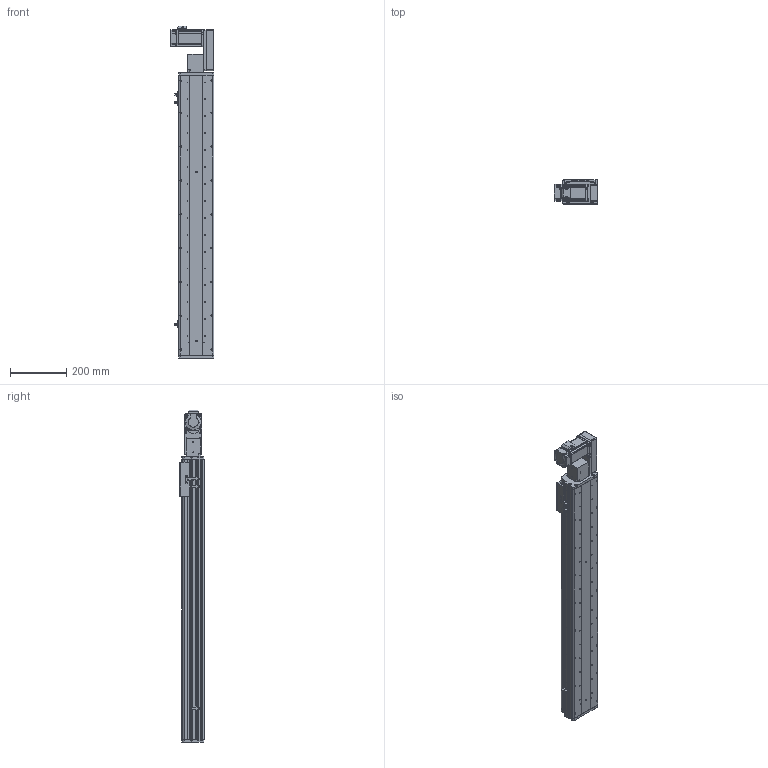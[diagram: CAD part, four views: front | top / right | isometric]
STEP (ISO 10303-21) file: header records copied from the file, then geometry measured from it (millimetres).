
FILE_DESCRIPTION (( 'STEP AP214' ), '1' );
FILE_NAME ('KSD125B-S800-MLB-CM.STEP', '2017-10-21T01:45:04', ( '微软用户' ), ( '微软中国' ), 'SwSTEP 2.0', 'SolidWorks 2014', '' );
FILE_SCHEMA (( 'AUTOMOTIVE_DESIGN' ));
Length unit declared in the file: millimetre
Products named in the file (17): KSD125模组同步带-防撞垫2; 覜茼え68遵圉猾敕; U倰嫖萇假蚾璃; U倰嫖萇EEㄜSX672; KSD125模组同步带-防撞垫1; 前端板-125宽模组同步带; 125模组同步带-尾端板1; KSD125模组同步带-滑动座1; KSD125B-S800-MLB-CM; 悵誘欶奻狟殏; HTPA30S3M150_A_H6_a佪裝蚚; HTPA30S3M150_A_H6_a萇儂蚚; 100宽马达安装板连板上下折丝杆同步带; 100宽马达安装板同步带左; KSD125模组800行程同步带-防尘盖; 125模组800行程同步带-底板; MHMD042G1CA_2_03
Assembly tree (20 placements, depth 2):
  KSD125B-S800-MLB-CM
    KSD125模组同步带-滑动座1
    125模组同步带-尾端板1
    前端板-125宽模组同步带
    KSD125模组同步带-防撞垫1
    U倰嫖萇EEㄜSX672  x3
    U倰嫖萇假蚾璃  x3
    覜茼え68遵圉猾敕
    KSD125模组同步带-防撞垫2
    MHMD042G1CA_2_03
    125模组800行程同步带-底板
    KSD125模组800行程同步带-防尘盖
    100宽马达安装板同步带左
    100宽马达安装板连板上下折丝杆同步带
    HTPA30S3M150_A_H6_a萇儂蚚
    HTPA30S3M150_A_H6_a佪裝蚚
    悵誘欶奻狟殏
Bounding box: 155 x 86 x 1178 mm (x, y, z)
Volume: 3390696.3 mm3; surface area: 1152956.8 mm2
Topology: 19 solids, 22 shells, 2289 faces, 6631 edges, 4382 vertices
Faces by surface type: cylinder 1436, plane 726, cone 105, bspline 22
Entity records: 81401 total; most frequent: CARTESIAN_POINT 16077, DIRECTION 12656, ORIENTED_EDGE 11782, EDGE_CURVE 5969, AXIS2_PLACEMENT_3D 4893, VERTEX_POINT 3974, VECTOR 2870, LINE 2870
